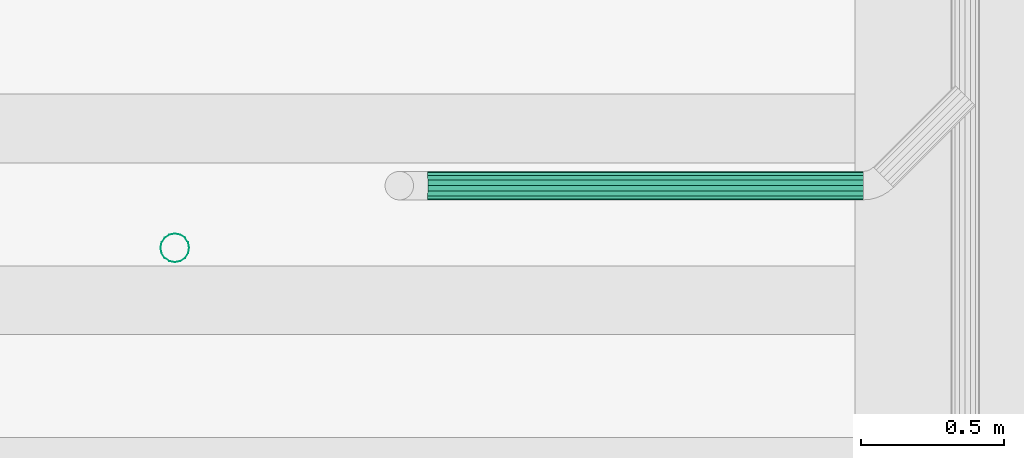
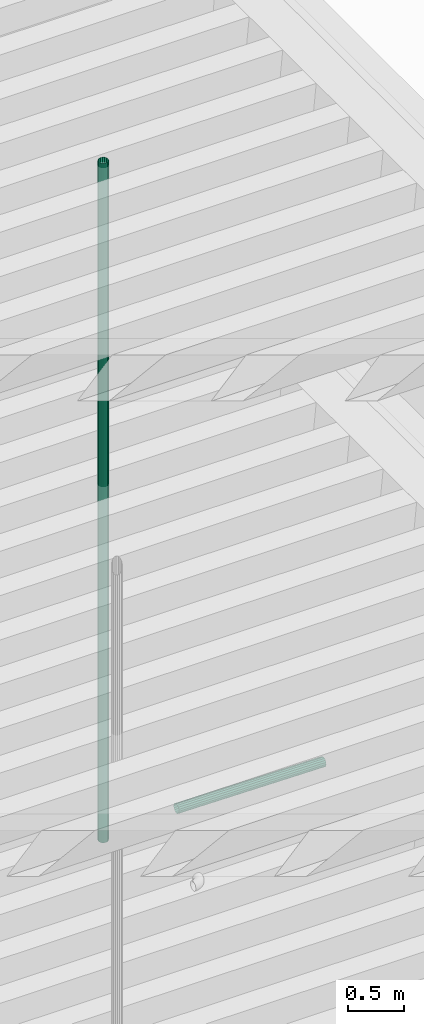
# One storey, part 46 of 106: 2 flow segments.
"""IFC2X3 building model written with IfcOpenShell, lengths in metres."""

from ifc_helpers import new_model, entity, si_unit, converted_unit, derived_unit, money_unit, direction, frame, origin_with_axes, place, context, subcontext, project, spatial, faceted_brep, material, type_object, element, save


model = new_model("IFC2X3")

# Units and contexts
model_context = context("Model", 3, precision=1e-05, world=origin_with_axes(), true_north=direction((0.0, 1.0)))
body_context = subcontext(model_context, "Body", "Model", "MODEL_VIEW", scale=1.0)
ifc_project = project(units=[si_unit("LENGTHUNIT", "METRE"), si_unit("AREAUNIT", "SQUARE_METRE"), si_unit("VOLUMEUNIT", "CUBIC_METRE"), si_unit("ABSORBEDDOSEUNIT", "GRAY"), si_unit("AMOUNTOFSUBSTANCEUNIT", "MOLE"), si_unit("DOSEEQUIVALENTUNIT", "SIEVERT"), si_unit("ELECTRICCAPACITANCEUNIT", "FARAD"), si_unit("ELECTRICCHARGEUNIT", "COULOMB"), si_unit("ELECTRICCONDUCTANCEUNIT", "SIEMENS"), si_unit("ELECTRICCURRENTUNIT", "AMPERE"), si_unit("ELECTRICRESISTANCEUNIT", "OHM"), si_unit("ELECTRICVOLTAGEUNIT", "VOLT"), si_unit("ENERGYUNIT", "JOULE"), si_unit("FORCEUNIT", "NEWTON"), si_unit("FREQUENCYUNIT", "HERTZ"), si_unit("ILLUMINANCEUNIT", "LUX"), si_unit("INDUCTANCEUNIT", "HENRY"), si_unit("LUMINOUSFLUXUNIT", "LUMEN"), si_unit("LUMINOUSINTENSITYUNIT", "CANDELA"), si_unit("MAGNETICFLUXDENSITYUNIT", "TESLA"), si_unit("MAGNETICFLUXUNIT", "WEBER"), si_unit("MASSUNIT", "GRAM"), converted_unit("PLANEANGLEUNIT", "degree", entity("IfcReal", 0.0174532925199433), si_unit("PLANEANGLEUNIT", "RADIAN"), dimensions=[0, 0, 0, 0, 0, 0, 0]), si_unit("POWERUNIT", "WATT"), si_unit("PRESSUREUNIT", "PASCAL"), si_unit("RADIOACTIVITYUNIT", "BECQUEREL"), si_unit("SOLIDANGLEUNIT", "STERADIAN"), si_unit("THERMODYNAMICTEMPERATUREUNIT", "KELVIN"), si_unit("TIMEUNIT", "SECOND"), derived_unit("ACCELERATIONUNIT", [(si_unit("LENGTHUNIT", "METRE"), 1), (si_unit("TIMEUNIT", "SECOND"), -2)]), derived_unit("ANGULARVELOCITYUNIT", [(converted_unit("PLANEANGLEUNIT", "degree", entity("IfcReal", 0.0174532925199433), si_unit("PLANEANGLEUNIT", "RADIAN"), dimensions=[0, 0, 0, 0, 0, 0, 0]), 1), (si_unit("TIMEUNIT", "SECOND"), -1)]), derived_unit("CURVATUREUNIT", [(converted_unit("PLANEANGLEUNIT", "degree", entity("IfcReal", 0.0174532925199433), si_unit("PLANEANGLEUNIT", "RADIAN"), dimensions=[0, 0, 0, 0, 0, 0, 0]), 1), (si_unit("LENGTHUNIT", "METRE"), -1)]), derived_unit("DYNAMICVISCOSITYUNIT", [(si_unit("PRESSUREUNIT", "PASCAL"), 1), (si_unit("TIMEUNIT", "SECOND"), 1)]), derived_unit("HEATFLUXDENSITYUNIT", [(si_unit("POWERUNIT", "WATT"), 1), (si_unit("LENGTHUNIT", "METRE"), -2)]), derived_unit("HEATINGVALUEUNIT", [(si_unit("ENERGYUNIT", "JOULE"), 1), (si_unit("MASSUNIT", "GRAM"), -1)]), derived_unit("INTEGERCOUNTRATEUNIT", [(si_unit("TIMEUNIT", "SECOND"), -1)]), derived_unit("IONCONCENTRATIONUNIT", [(si_unit("MASSUNIT", "GRAM"), 1), (si_unit("VOLUMEUNIT", "CUBIC_METRE"), -1)]), derived_unit("ISOTHERMALMOISTURECAPACITYUNIT", [(si_unit("VOLUMEUNIT", "CUBIC_METRE"), 1), (si_unit("MASSUNIT", "GRAM"), -1)]), derived_unit("KINEMATICVISCOSITYUNIT", [(si_unit("AREAUNIT", "SQUARE_METRE"), 1), (si_unit("TIMEUNIT", "SECOND"), -1)]), derived_unit("LINEARFORCEUNIT", [(si_unit("FORCEUNIT", "NEWTON"), 1), (si_unit("LENGTHUNIT", "METRE"), -1)]), derived_unit("LINEARMOMENTUNIT", [(si_unit("FORCEUNIT", "NEWTON"), 1), (si_unit("LENGTHUNIT", "METRE"), -1)]), derived_unit("LINEARSTIFFNESSUNIT", [(si_unit("FORCEUNIT", "NEWTON"), 1), (si_unit("LENGTHUNIT", "METRE"), -1)]), derived_unit("LINEARVELOCITYUNIT", [(si_unit("LENGTHUNIT", "METRE"), 1), (si_unit("TIMEUNIT", "SECOND"), -1)]), derived_unit("LUMINOUSINTENSITYDISTRIBUTIONUNIT", [(si_unit("LUMINOUSINTENSITYUNIT", "CANDELA"), 1), (si_unit("LUMINOUSFLUXUNIT", "LUMEN"), -1)]), derived_unit("MASSDENSITYUNIT", [(si_unit("MASSUNIT", "GRAM"), 1), (si_unit("VOLUMEUNIT", "CUBIC_METRE"), -1)]), derived_unit("MASSFLOWRATEUNIT", [(si_unit("MASSUNIT", "GRAM"), 1), (si_unit("TIMEUNIT", "SECOND"), -1)]), derived_unit("MASSPERLENGTHUNIT", [(si_unit("MASSUNIT", "GRAM"), 1), (si_unit("LENGTHUNIT", "METRE"), -1)]), derived_unit("MODULUSOFELASTICITYUNIT", [(si_unit("FORCEUNIT", "NEWTON"), 1), (si_unit("AREAUNIT", "SQUARE_METRE"), -1)]), derived_unit("MODULUSOFLINEARSUBGRADEREACTIONUNIT", [(si_unit("FORCEUNIT", "NEWTON"), 1), (si_unit("LENGTHUNIT", "METRE"), -2)]), derived_unit("MODULUSOFROTATIONALSUBGRADEREACTIONUNIT", [(si_unit("FORCEUNIT", "NEWTON"), 1), (si_unit("LENGTHUNIT", "METRE"), 1)]), derived_unit("MODULUSOFSUBGRADEREACTIONUNIT", [(si_unit("FORCEUNIT", "NEWTON"), 1), (si_unit("VOLUMEUNIT", "CUBIC_METRE"), -1)]), derived_unit("MOISTUREDIFFUSIVITYUNIT", [(si_unit("VOLUMEUNIT", "CUBIC_METRE"), 1), (si_unit("TIMEUNIT", "SECOND"), -1)]), derived_unit("MOLECULARWEIGHTUNIT", [(si_unit("MASSUNIT", "GRAM"), 1), (si_unit("AMOUNTOFSUBSTANCEUNIT", "MOLE"), -1)]), derived_unit("PLANARFORCEUNIT", [(si_unit("FORCEUNIT", "NEWTON"), 1), (si_unit("LENGTHUNIT", "METRE"), -2)]), derived_unit("ROTATIONALFREQUENCYUNIT", [(si_unit("TIMEUNIT", "SECOND"), -1)]), derived_unit("ROTATIONALMASSUNIT", [(si_unit("MASSUNIT", "GRAM"), 1), (si_unit("LENGTHUNIT", "METRE"), 2)]), derived_unit("ROTATIONALSTIFFNESSUNIT", [(si_unit("FORCEUNIT", "NEWTON"), 1), (si_unit("LENGTHUNIT", "METRE"), 1), (converted_unit("PLANEANGLEUNIT", "degree", entity("IfcReal", 0.0174532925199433), si_unit("PLANEANGLEUNIT", "RADIAN"), dimensions=[0, 0, 0, 0, 0, 0, 0]), -1)]), derived_unit("SECTIONAREAINTEGRALUNIT", [(si_unit("LENGTHUNIT", "METRE"), 5)]), derived_unit("SECTIONMODULUSUNIT", [(si_unit("LENGTHUNIT", "METRE"), 3)]), derived_unit("SHEARMODULUSUNIT", [(si_unit("FORCEUNIT", "NEWTON"), 1), (si_unit("AREAUNIT", "SQUARE_METRE"), -1)]), derived_unit("SOUNDPOWERUNIT", [(si_unit("ENERGYUNIT", "JOULE"), 1), (si_unit("TIMEUNIT", "SECOND"), -1)]), derived_unit("SPECIFICHEATCAPACITYUNIT", [(si_unit("FORCEUNIT", "NEWTON"), 1), (si_unit("MASSUNIT", "GRAM"), -1), (si_unit("THERMODYNAMICTEMPERATUREUNIT", "KELVIN"), -1)]), derived_unit("TEMPERATUREGRADIENTUNIT", [(si_unit("THERMODYNAMICTEMPERATUREUNIT", "KELVIN"), 1), (si_unit("LENGTHUNIT", "METRE"), -1)]), derived_unit("THERMALADMITTANCEUNIT", [(si_unit("POWERUNIT", "WATT"), 1), (si_unit("AREAUNIT", "SQUARE_METRE"), -1), (si_unit("THERMODYNAMICTEMPERATUREUNIT", "KELVIN"), -1)]), derived_unit("THERMALCONDUCTANCEUNIT", [(si_unit("POWERUNIT", "WATT"), 1), (si_unit("LENGTHUNIT", "METRE"), -1), (si_unit("THERMODYNAMICTEMPERATUREUNIT", "KELVIN"), -1)]), derived_unit("THERMALEXPANSIONCOEFFICIENTUNIT", [(si_unit("THERMODYNAMICTEMPERATUREUNIT", "KELVIN"), -1)]), derived_unit("THERMALRESISTANCEUNIT", [(si_unit("AREAUNIT", "SQUARE_METRE"), 1), (si_unit("POWERUNIT", "WATT"), -1)]), derived_unit("THERMALTRANSMITTANCEUNIT", [(si_unit("POWERUNIT", "WATT"), 1), (si_unit("AREAUNIT", "SQUARE_METRE"), -1), (si_unit("THERMODYNAMICTEMPERATUREUNIT", "KELVIN"), -1)]), derived_unit("TORQUEUNIT", [(si_unit("FORCEUNIT", "NEWTON"), 1), (si_unit("LENGTHUNIT", "METRE"), 1)]), derived_unit("VAPORPERMEABILITYUNIT", [(si_unit("MASSUNIT", "GRAM"), 1), (si_unit("TIMEUNIT", "SECOND"), -1)]), derived_unit("VOLUMETRICFLOWRATEUNIT", [(si_unit("VOLUMEUNIT", "CUBIC_METRE"), 1), (si_unit("TIMEUNIT", "SECOND"), -1)]), derived_unit("WARPINGCONSTANTUNIT", [(si_unit("LENGTHUNIT", "METRE"), 6)]), derived_unit("WARPINGMOMENTUNIT", [(si_unit("FORCEUNIT", "NEWTON"), 1), (si_unit("LENGTHUNIT", "METRE"), 2)]), money_unit("GBP")], contexts=[model_context])

# Site, building, storey
site_placement = place(None, origin_with_axes())
site = spatial("IfcSite", under=ifc_project, at=site_placement, Name="Site", CompositionType="ELEMENT")
building_placement = place(site_placement, origin_with_axes())
building = spatial("IfcBuilding", under=site, at=building_placement, Name="Building01", CompositionType="ELEMENT")
storey_placement = place(building_placement, origin_with_axes())
storey = spatial("IfcBuildingStorey", under=building, at=storey_placement, Name="GF", CompositionType="ELEMENT", Elevation=0.0)

# Flow segment
ifc_material = material(Name="M_BSUK_ColdWater")
pipe_segment_type = type_object("IfcPipeSegmentType", Name="M-BmpStraightpipe-DefaultPipe", PredefinedType="RIGIDSEGMENT")
flow_segment_1_placement = place(storey_placement, frame((6.149098, 11.532504, 12.13), z_axis=(1.0, 0.0, 0.0), x_axis=(0.0, 0.0, -1.0)))
element("IfcFlowSegment", 1, at=flow_segment_1_placement, inside=storey, type_object=pipe_segment_type, material=ifc_material, Name="M-BmpStraightpipe-DefaultPipe", ObjectType="M-BmpStraightpipe-DefaultPipe", context=body_context, shape_type="Brep", body=[
    faceted_brep([(7.432073, 0.0, -0.05), (0.0, 0.0, -0.05), (0.0, 0.019134, -0.046194), (7.432073, 0.019134, -0.046194), (0.0, 0.035355, -0.035355), (7.432073, 0.035355, -0.035355), (0.0, 0.046194, -0.019134), (7.432073, 0.046194, -0.019134), (0.0, 0.05, 0.0), (7.432073, 0.05, 0.0), (0.0, 0.046194, 0.019134), (7.432073, 0.046194, 0.019134), (0.0, 0.035355, 0.035355), (7.432073, 0.035355, 0.035355), (0.0, 0.019134, 0.046194), (7.432073, 0.019134, 0.046194), (0.0, 0.0, 0.05), (7.432073, 0.0, 0.05), (0.0, -0.019134, 0.046194), (7.432073, -0.019134, 0.046194), (0.0, -0.035355, 0.035355), (7.432073, -0.035355, 0.035355), (0.0, -0.046194, 0.019134), (7.432073, -0.046194, 0.019134), (0.0, -0.05, 0.0), (7.432073, -0.05, 0.0), (0.0, -0.046194, -0.019134), (7.432073, -0.046194, -0.019134), (0.0, -0.035355, -0.035355), (7.432073, -0.035355, -0.035355), (0.0, -0.019134, -0.046194), (7.432073, -0.019134, -0.046194)], [[[0, 1, 2, 3]], [[3, 2, 4, 5]], [[5, 4, 6, 7]], [[7, 6, 8, 9]], [[9, 8, 10, 11]], [[11, 10, 12, 13]], [[13, 12, 14, 15]], [[15, 14, 16, 17]], [[17, 16, 18, 19]], [[19, 18, 20, 21]], [[21, 20, 22, 23]], [[23, 22, 24, 25]], [[25, 24, 26, 27]], [[27, 26, 28, 29]], [[29, 28, 30, 31]], [[31, 30, 1, 0]]]),
])

# Space
space_placement = place(storey_placement, frame((3.380525, 16.69365, 0.216987), z_axis=(0.0, 0.0, 1.0), x_axis=(-1.0, 0.0, 0.0)))
space = spatial("IfcSpace", under=storey, at=space_placement, Name="0", CompositionType="ELEMENT", InteriorOrExteriorSpace="NOTDEFINED")

# Flow segment
flow_segment_2_placement = place(storey_placement, frame((7.031926, 11.75, 4.597935), z_axis=(0.01249902, 0.0, 0.99992188), x_axis=(0.99992188, 0.0, -0.01249902)))
element("IfcFlowSegment", 2, at=flow_segment_2_placement, inside=space, type_object=pipe_segment_type, material=ifc_material, Name="M-BmpStraightpipe-DefaultPipe", ObjectType="M-BmpStraightpipe-DefaultPipe", context=body_context, shape_type="Brep", body=[
    faceted_brep([(1.522036, 0.0, -0.05), (0.0, 0.0, -0.05), (0.0, 0.019134, -0.046194), (1.522036, 0.019134, -0.046194), (0.0, 0.035355, -0.035355), (1.522036, 0.035355, -0.035355), (0.0, 0.046194, -0.019134), (1.522036, 0.046194, -0.019134), (0.0, 0.05, 0.0), (1.522036, 0.05, 0.0), (0.0, 0.046194, 0.019134), (1.522036, 0.046194, 0.019134), (0.0, 0.035355, 0.035355), (1.522036, 0.035355, 0.035355), (0.0, 0.019134, 0.046194), (1.522036, 0.019134, 0.046194), (0.0, 0.0, 0.05), (1.522036, 0.0, 0.05), (0.0, -0.019134, 0.046194), (1.522036, -0.019134, 0.046194), (0.0, -0.035355, 0.035355), (1.522036, -0.035355, 0.035355), (0.0, -0.046194, 0.019134), (1.522036, -0.046194, 0.019134), (0.0, -0.05, 0.0), (1.522036, -0.05, 0.0), (0.0, -0.046194, -0.019134), (1.522036, -0.046194, -0.019134), (0.0, -0.035355, -0.035355), (1.522036, -0.035355, -0.035355), (0.0, -0.019134, -0.046194), (1.522036, -0.019134, -0.046194)], [[[0, 1, 2, 3]], [[3, 2, 4, 5]], [[5, 4, 6, 7]], [[7, 6, 8, 9]], [[9, 8, 10, 11]], [[11, 10, 12, 13]], [[13, 12, 14, 15]], [[15, 14, 16, 17]], [[17, 16, 18, 19]], [[19, 18, 20, 21]], [[21, 20, 22, 23]], [[23, 22, 24, 25]], [[25, 24, 26, 27]], [[27, 26, 28, 29]], [[29, 28, 30, 31]], [[31, 30, 1, 0]]]),
])

save(model, "model.ifc")
